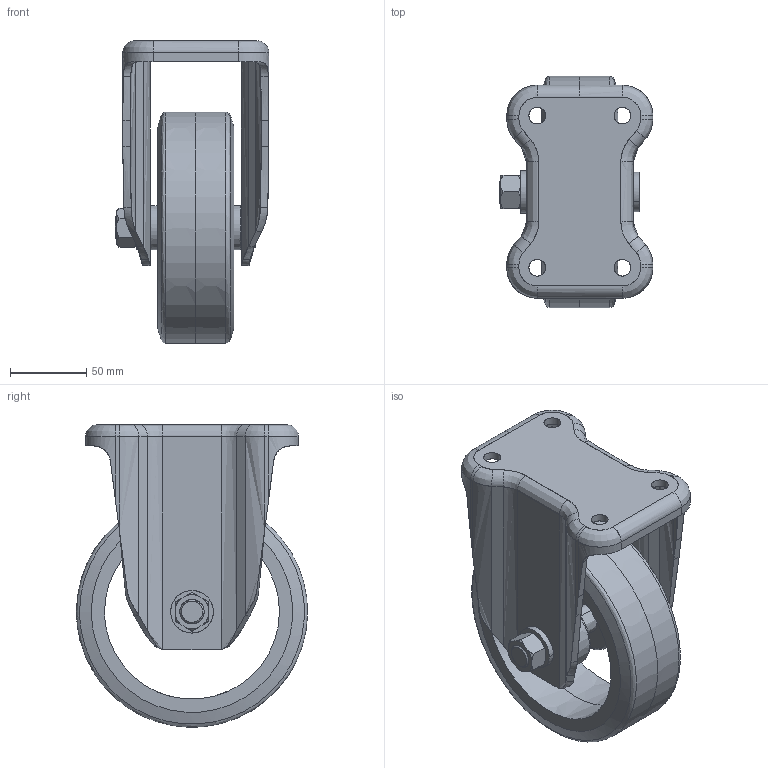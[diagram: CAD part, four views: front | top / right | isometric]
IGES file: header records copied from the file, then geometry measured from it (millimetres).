
Start section: JAMA-IS VERSION  1.0
Global section: file name: C:\CAM-TOOL data\ToolsFile\INOAC車輪\5月\HP-150WK\HP-150WK-ALL.igs; native system: CAM-TOOL; preprocessor: C3out Version 11.1.1.50212 (2015/02/12); author: NONE; organization: NONE; date: 230626.165347; units: millimetre
Bounding box: 101 x 152 x 199 mm (x, y, z)
Surface area: 161255.8 mm2 (no closed solid volume)
Topology: 0 solids, 0 shells, 226 faces, 4721 edges, 4776 vertices
Faces by surface type: bspline 226
